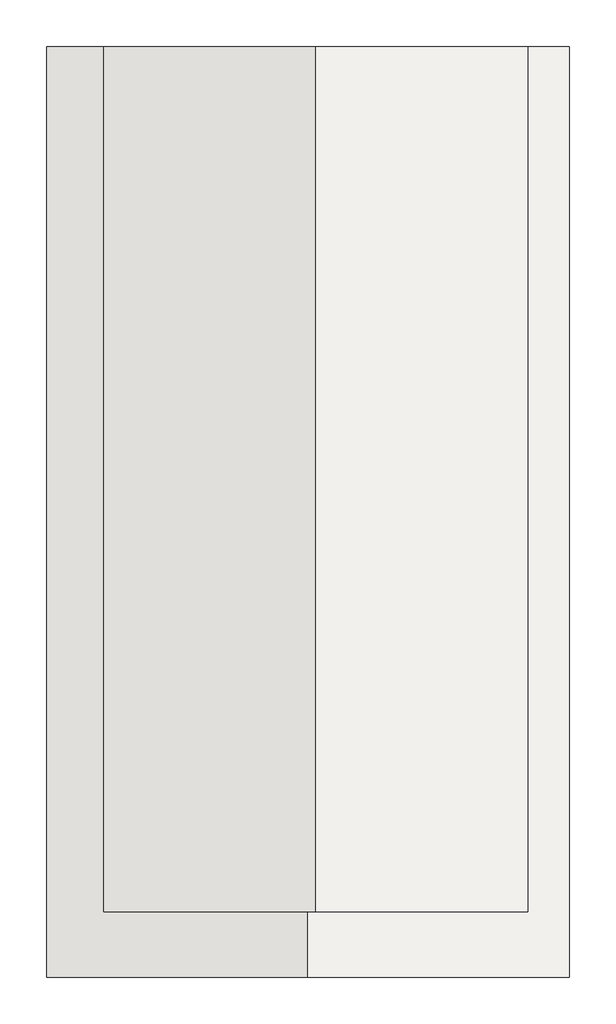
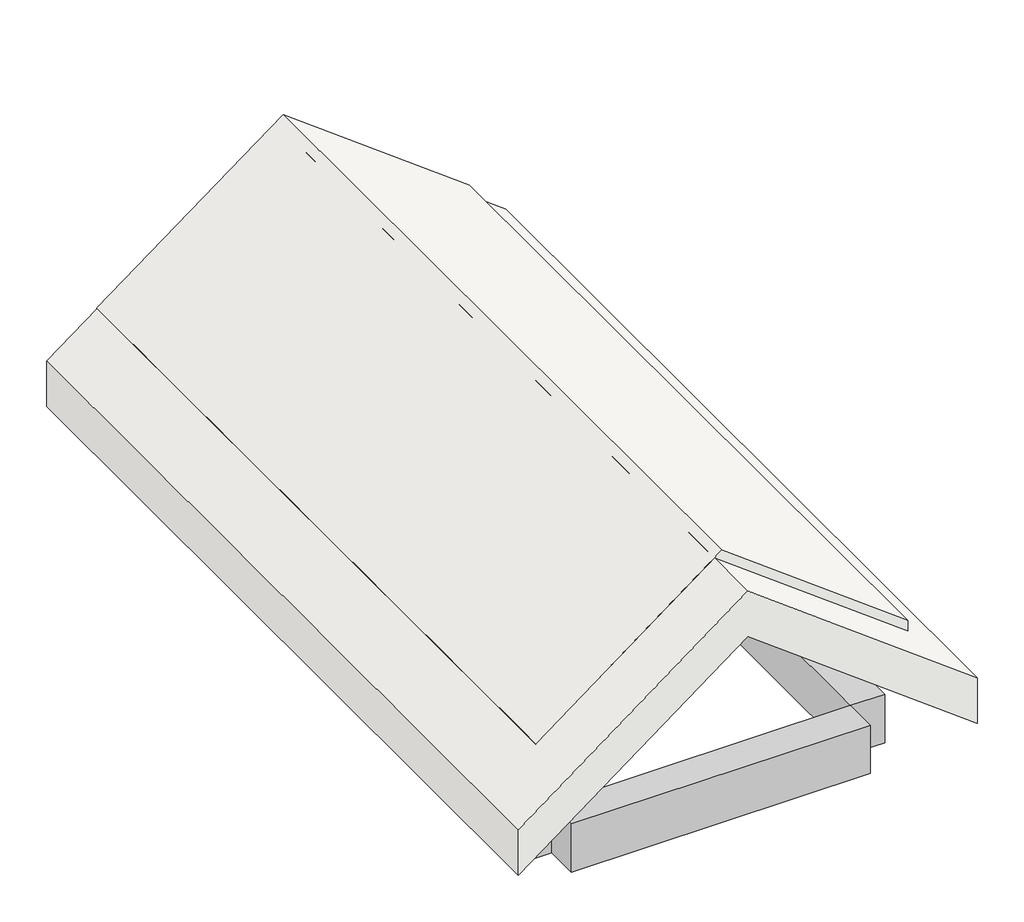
# One storey: 4 beams, 2 roofs.
"""IFC4 building model written with IfcOpenShell, lengths in millimetres."""

from ifc_helpers import new_model, si_unit, frame, origin, place, context, project, spatial, polyline, outline, extrude, element, save

model = new_model("IFC4")

# Units and contexts
model_context = context("Model", 3, world=origin())
ifc_project = project(units=[si_unit("LENGTHUNIT", "METRE", prefix="MILLI")], contexts=[model_context])

# Site, building, storey
site = spatial("IfcSite", under=ifc_project)
building = spatial("IfcBuilding", under=site)
storey = spatial("IfcBuildingStorey", under=building, Name="rOOF", Elevation=6096.0)

# Beams
placement = place(None, origin())
element("IfcBeam", 1, ObjectType="Concrete-Rectangular Beam : 8 x 12", at=placement, inside=storey, context=model_context, shape_type="SweptSolid", body=[
    extrude(outline(polyline([(-2961.3915209, -2006.4926766), (-2758.1915209, -2006.4926766), (-2758.1915209, -6095.8926766), (-2961.3915209, -6095.8926766), (-2961.3915209, -2006.4926766)])), frame((0.0, 0.0, 5486.4), z_axis=(0.0, 0.0, 1.0), x_axis=(1.0, 0.0, 0.0)), (0.0, 0.0, 1.0), 304.8),
])
element("IfcBeam", 2, ObjectType="Concrete-Rectangular Beam : 8 x 12", at=placement, inside=storey, context=model_context, shape_type="SweptSolid", body=[
    extrude(outline(polyline([(-980.1915209, -6095.8926766), (-980.1915209, -6299.0926766), (-2758.1915209, -6299.0926766), (-2758.1915209, -6095.8926766), (-980.1915209, -6095.8926766)])), frame((0.0, 0.0, 5486.4), z_axis=(0.0, 0.0, 1.0), x_axis=(1.0, 0.0, 0.0)), (0.0, 0.0, 1.0), 304.8),
])
element("IfcBeam", 3, ObjectType="Concrete-Rectangular Beam : 8 x 12", at=placement, inside=storey, context=model_context, shape_type="SweptSolid", body=[
    extrude(outline(polyline([(-980.1915209, -2006.4926766), (-776.9915209, -2006.4926766), (-776.9915209, -6095.8926766), (-980.1915209, -6095.8926766), (-980.1915209, -2006.4926766)])), frame((0.0, 0.0, 5486.4), z_axis=(0.0, 0.0, 1.0), x_axis=(1.0, 0.0, 0.0)), (0.0, 0.0, 1.0), 304.8),
])
element("IfcBeam", 4, ObjectType="Concrete-Rectangular Beam : 8 x 12", at=placement, inside=storey, context=model_context, shape_type="SweptSolid", body=[
    extrude(outline(polyline([(-980.1915209, -1803.2926766), (-980.1915209, -2006.4926766), (-2758.1915209, -2006.4926766), (-2758.1915209, -1803.2926766), (-980.1915209, -1803.2926766)])), frame((0.0, 0.0, 5486.4), z_axis=(0.0, 0.0, 1.0), x_axis=(1.0, 0.0, 0.0)), (0.0, 0.0, 1.0), 304.8),
])

# Roofs
element("IfcRoof", 5, ObjectType="Generic - 230mm", at=placement, inside=storey, context=model_context, shape_type="SweptSolid", body=[
    extrude(outline(polyline([(6153.15, -546.8040209), (7177.6828125, -1912.8477709), (6153.15, -3278.8915209), (5867.4, -3278.8915209), (6891.9328125, -1912.8477709), (5867.4, -546.8040209), (6153.15, -546.8040209)])), frame((0.0, -6654.6926766, 0.0), z_axis=(0.0, 1.0, 0.0), x_axis=(0.0, 0.0, 1.0)), (0.0, 0.0, 1.0), 4864.1),
])
element("IfcRoof", 6, ObjectType="Generic - 230mm", at=placement, inside=storey, context=model_context, shape_type="SweptSolid", body=[
    extrude(outline(polyline([(6381.75, -764.2915209), (7212.1908012, -1871.5459224), (6381.75, -2978.800324), (6096.0, -2978.800324), (6926.4408012, -1871.5459224), (6096.0, -764.2915209), (6381.75, -764.2915209)])), frame((0.0, -6311.7926766, 0.0), z_axis=(0.0, 1.0, 0.0), x_axis=(0.0, 0.0, 1.0)), (0.0, 0.0, 1.0), 4521.2),
])

save(model, "model.ifc")
